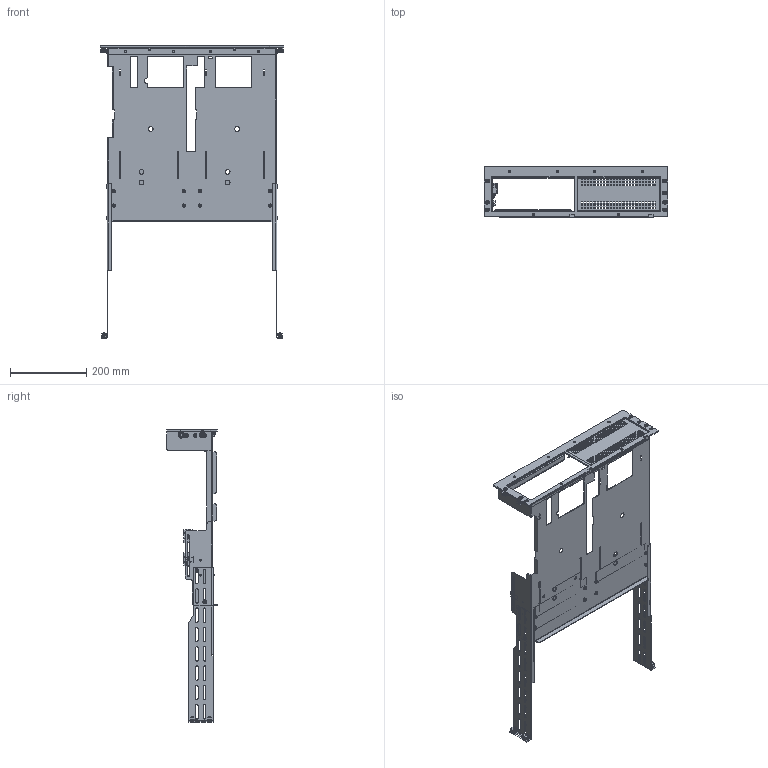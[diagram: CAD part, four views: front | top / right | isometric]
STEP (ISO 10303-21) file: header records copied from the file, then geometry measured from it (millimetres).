
FILE_DESCRIPTION((''),'2;1');
FILE_NAME('4299-7-300_ASM','2015-04-20T',('mboehnle'),('Keithley Instruments, Inc'),'PRO/ENGINEER BY PARAMETRIC TECHNOLOGY CORPORATION, 2012480','PRO/ENGINEER BY PARAMETRIC TECHNOLOGY CORPORATION, 2012480','');
FILE_SCHEMA(('CONFIG_CONTROL_DESIGN'));
Length unit declared in the file: inch
Products named in the file (27): 4299-7-301; 4288-4-302; 4299-7-307; CLS-632-0; 4299-7-307_ASM; 6-32X5-16PFH; WA-137-1; M4X10PPH; 8-32X7-16PHTRSH; 4299-7-303; PEM-FHS-832-8; 4299-7-303_ASM; 4299-7-306; 8-32KEPNUT; 8-32X3-8PPHSEM; 4299-7-305; PEM-TPS-187-6; 4299-7-305_ASM; 4299-7-304; 4299-7-302; 10-32X3-8PPH; 10-32KEPNUT; FA-148; 10-32X5-8PPH; 3867813; 211153300; 4299-7-300_ASM
Assembly tree (76 placements, depth 3):
  4299-7-300_ASM
    4299-7-301
    4288-4-302  x2
    4299-7-307_ASM  x2
      4299-7-307
      CLS-632-0
    6-32X5-16PFH  x2
    WA-137-1  x4
    M4X10PPH  x4
    8-32X7-16PHTRSH  x2
    4299-7-303_ASM
      4299-7-303
      PEM-FHS-832-8  x6
    4299-7-306  x2
    8-32KEPNUT  x6
    8-32X3-8PPHSEM  x8
    4299-7-305_ASM
      4299-7-305
      PEM-TPS-187-6  x2
    4299-7-304
    4299-7-302
    10-32X3-8PPH  x4
    10-32KEPNUT  x4
    FA-148  x8
    10-32X5-8PPH  x8
    3867813
    211153300  x2
Bounding box: 482.61 x 133.11 x 771.98 mm (x, y, z)
Volume: 661764.8 mm3; surface area: 830618.6 mm2
Topology: 96 solids, 98 shells, 4590 faces, 12830 edges, 8472 vertices
Faces by surface type: plane 2637, cylinder 1645, cone 194, bspline 58, torus 52, sphere 4
Entity records: 89436 total; most frequent: CARTESIAN_POINT 29049, ORIENTED_EDGE 12559, DIRECTION 11684, EDGE_CURVE 6440, VECTOR 4428, LINE 4428, VERTEX_POINT 4234, AXIS2_PLACEMENT_3D 3628
